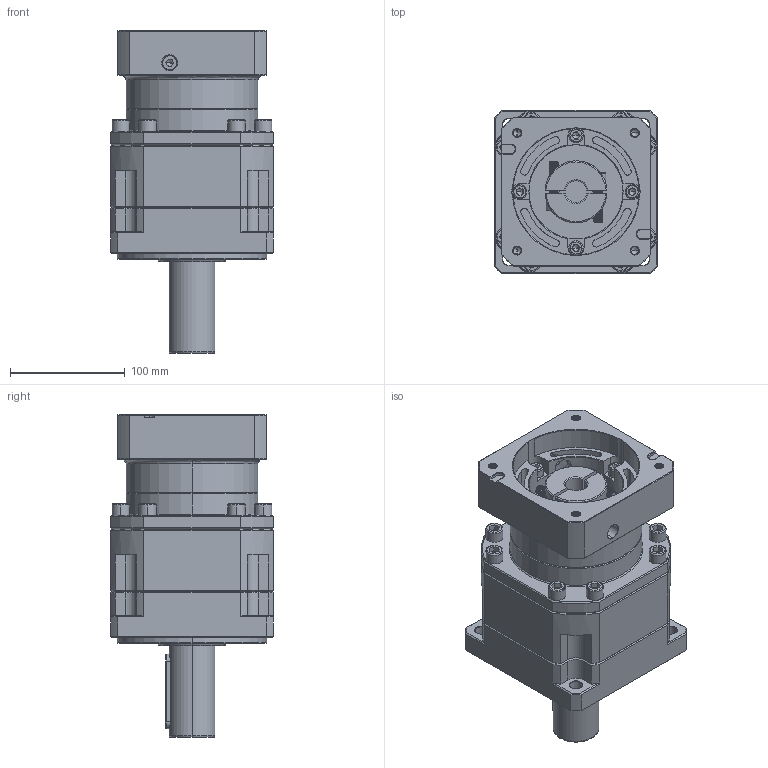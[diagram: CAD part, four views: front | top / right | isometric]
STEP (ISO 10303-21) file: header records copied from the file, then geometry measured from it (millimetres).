
FILE_DESCRIPTION (( 'STEP AP214' ), '1' );
FILE_NAME ('ZB142A-D40-L2-19-110-145-M8.step', '2023-03-18T07:03:50', ( '' ), ( '' ), 'SwSTEP 2.0', 'SolidWorks 2016', '' );
FILE_SCHEMA (( 'AUTOMOTIVE_DESIGN' ));
Length unit declared in the file: millimetre
Products named in the file (1): ZB142A-D40-L2-19-110-145-M8
Bounding box: 142 x 142 x 281.2 mm (x, y, z)
Volume: 2954894.7 mm3; surface area: 255427.6 mm2
Topology: 6 solids, 6 shells, 2322 faces, 6019 edges, 3812 vertices
Faces by surface type: plane 1051, cylinder 517, cone 388, bspline 309, torus 57
Entity records: 123254 total; most frequent: CARTESIAN_POINT 43618, ORIENTED_EDGE 11930, DIRECTION 10140, EDGE_CURVE 5965, VERTEX_POINT 3812, VECTOR 3664, LINE 3664, AXIS2_PLACEMENT_3D 3238
